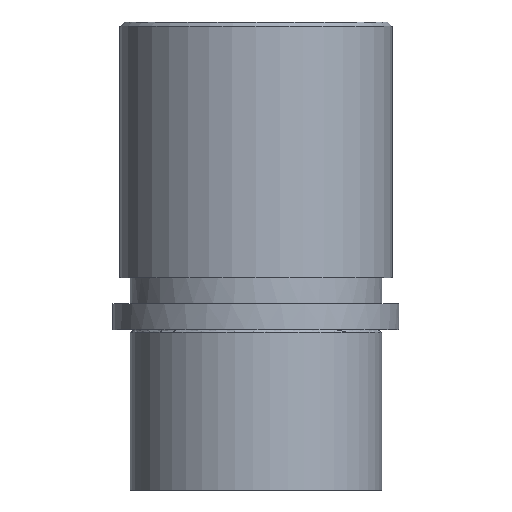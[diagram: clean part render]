
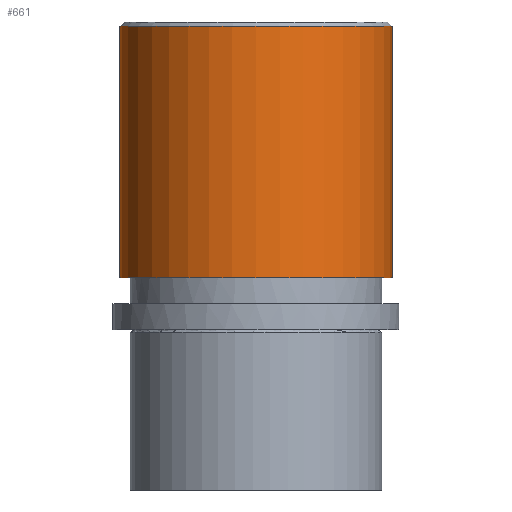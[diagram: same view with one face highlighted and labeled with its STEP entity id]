
A CAD part, front view. The second image highlights one B-rep face of the part: STEP entity #661.
In plain terms, the highlighted cylindrical face has radius 31.4 mm (diameter 62.8 mm), a partial arc.
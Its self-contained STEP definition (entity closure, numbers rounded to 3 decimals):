
#505=CARTESIAN_POINT('Vertex',(-31.4,0.,70.)) ;
#512=CARTESIAN_POINT('Vertex',(31.4,0.,70.)) ;
#532=CARTESIAN_POINT('Axis2P3D Location',(0.,0.,70.)) ;
#619=CARTESIAN_POINT('Line Origine',(-31.4,0.,71.)) ;
#623=CARTESIAN_POINT('Vertex',(-31.4,0.,12.)) ;
#626=CARTESIAN_POINT('Line Origine',(31.4,0.,71.)) ;
#630=CARTESIAN_POINT('Vertex',(31.4,0.,12.)) ;
#645=CARTESIAN_POINT('Axis2P3D Location',(0.,0.,71.)) ;
#650=CARTESIAN_POINT('Axis2P3D Location',(0.,0.,12.)) ;
#533=DIRECTION('Axis2P3D Direction',(0.,0.,-1.)) ;
#620=DIRECTION('Vector Direction',(0.,0.,-1.)) ;
#627=DIRECTION('Vector Direction',(0.,0.,-1.)) ;
#646=DIRECTION('Axis2P3D Direction',(0.,0.,-1.)) ;
#647=DIRECTION('Axis2P3D XDirection',(1.,0.,0.)) ;
#651=DIRECTION('Axis2P3D Direction',(0.,0.,-1.)) ;
#534=AXIS2_PLACEMENT_3D('Circle Axis2P3D',#532,#533,$) ;
#648=AXIS2_PLACEMENT_3D('Cylinder Axis2P3D',#645,#646,#647) ;
#652=AXIS2_PLACEMENT_3D('Circle Axis2P3D',#650,#651,$) ;
#656=ORIENTED_EDGE('',*,*,#632,.T.) ;
#657=ORIENTED_EDGE('',*,*,#536,.F.) ;
#658=ORIENTED_EDGE('',*,*,#625,.T.) ;
#659=ORIENTED_EDGE('',*,*,#654,.T.) ;
#621=VECTOR('Line Direction',#620,1.) ;
#628=VECTOR('Line Direction',#627,1.) ;
#661=ADVANCED_FACE('733-40',(#660),#649,.T.) ;
#535=CIRCLE('generated circle',#534,31.4) ;
#653=CIRCLE('generated circle',#652,31.4) ;
#649=CYLINDRICAL_SURFACE('generated cylinder',#648,31.4) ;
#536=EDGE_CURVE('',#506,#513,#535,.F.) ;
#625=EDGE_CURVE('',#506,#624,#622,.T.) ;
#632=EDGE_CURVE('',#631,#513,#629,.F.) ;
#654=EDGE_CURVE('',#624,#631,#653,.F.) ;
#655=EDGE_LOOP('',(#656,#657,#658,#659)) ;
#660=FACE_OUTER_BOUND('',#655,.T.) ;
#622=LINE('Line',#619,#621) ;
#629=LINE('Line',#626,#628) ;
#506=VERTEX_POINT('',#505) ;
#513=VERTEX_POINT('',#512) ;
#624=VERTEX_POINT('',#623) ;
#631=VERTEX_POINT('',#630) ;
